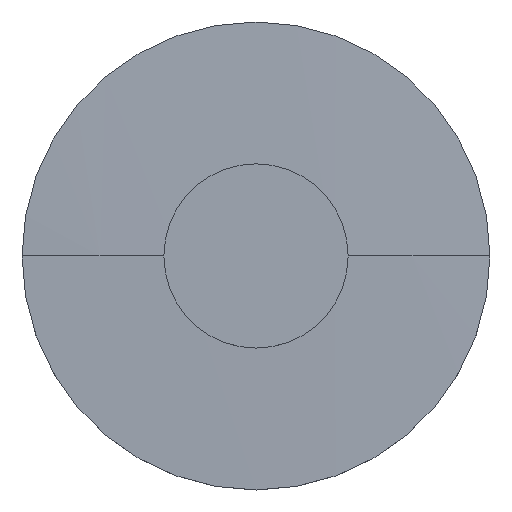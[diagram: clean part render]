
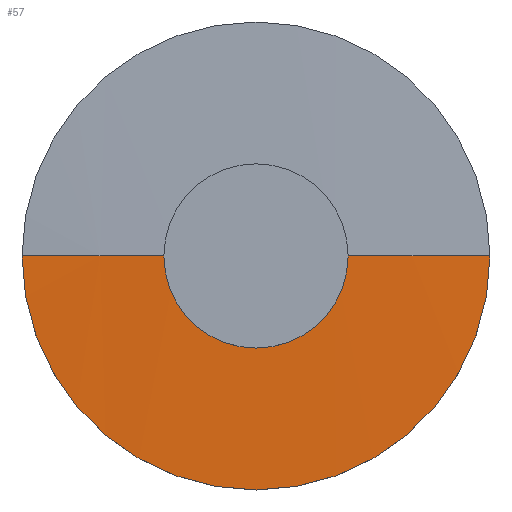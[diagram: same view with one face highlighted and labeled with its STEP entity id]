
A CAD part, top view. The second image highlights one B-rep face of the part: STEP entity #57.
In plain terms, the highlighted spherical face has radius 759.878 mm.
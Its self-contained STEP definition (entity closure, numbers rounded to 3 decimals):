
#57=ADVANCED_FACE('',(#71),#72,.T.);
#71=FACE_OUTER_BOUND('',#91,.T.);
#72=SPHERICAL_SURFACE('',#92,759.878);
#91=EDGE_LOOP('',(#124,#125,#126));
#92=AXIS2_PLACEMENT_3D('',#127,#128,#129);
#124=ORIENTED_EDGE('',*,*,#173,.T.);
#125=ORIENTED_EDGE('',*,*,#174,.T.);
#126=ORIENTED_EDGE('',*,*,#175,.T.);
#127=CARTESIAN_POINT('',(0.0,0.0,-753.378));
#128=DIRECTION('',(0.0,0.0,1.0));
#129=DIRECTION('',(1.0,0.0,0.0));
#173=EDGE_CURVE('',#189,#194,#195,.T.);
#174=EDGE_CURVE('',#194,#191,#196,.T.);
#175=EDGE_CURVE('',#191,#189,#197,.T.);
#189=VERTEX_POINT('',#215);
#191=VERTEX_POINT('',#218);
#194=VERTEX_POINT('',#222);
#195=CIRCLE('',#223,759.878);
#196=CIRCLE('',#224,759.878);
#197=CIRCLE('',#225,25.4);
#215=CARTESIAN_POINT('',(25.4,0.,6.075));
#218=CARTESIAN_POINT('',(-25.4,0.,6.075));
#222=CARTESIAN_POINT('',(0.0,0.0,6.5));
#223=AXIS2_PLACEMENT_3D('',#253,#254,#255);
#224=AXIS2_PLACEMENT_3D('',#256,#257,#258);
#225=AXIS2_PLACEMENT_3D('',#259,#260,#261);
#253=CARTESIAN_POINT('',(0.0,0.0,-753.378));
#254=DIRECTION('',(0.,-1.0,0.0));
#255=DIRECTION('',(0.0,0.0,1.0));
#256=CARTESIAN_POINT('',(0.0,0.0,-753.378));
#257=DIRECTION('',(0.,-1.0,0.0));
#258=DIRECTION('',(0.0,0.0,1.0));
#259=CARTESIAN_POINT('',(0.0,0.0,6.075));
#260=DIRECTION('',(0.0,0.0,1.0));
#261=DIRECTION('',(1.0,0.0,0.0));
